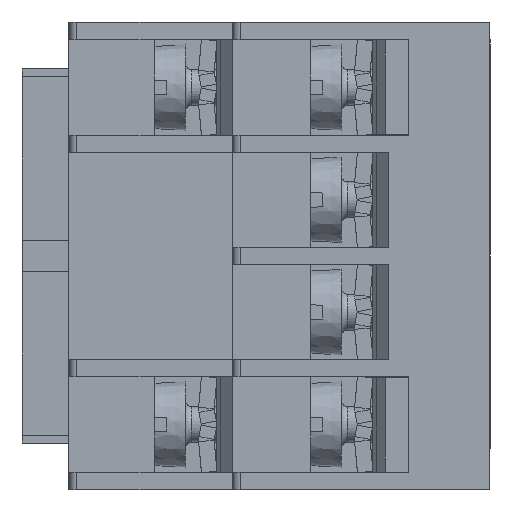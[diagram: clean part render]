
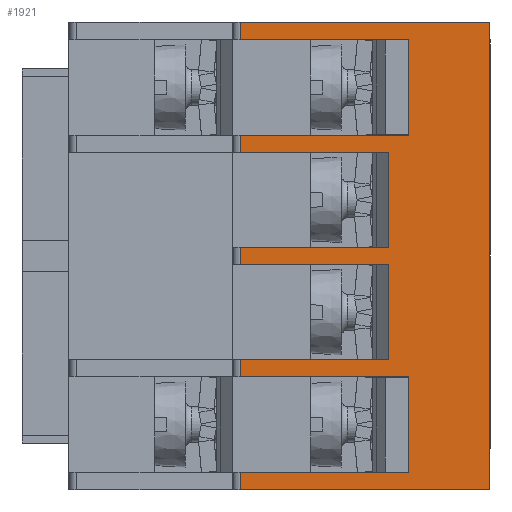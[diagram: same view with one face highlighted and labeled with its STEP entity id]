
A CAD part, left-side view. The second image highlights one B-rep face of the part: STEP entity #1921.
In plain terms, the highlighted planar face has unit normal (-1, 0, 0).
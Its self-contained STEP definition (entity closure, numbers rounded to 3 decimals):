
#1921=ADVANCED_FACE('',(#28666),#28668,.T.);
#28666=FACE_BOUND('',#28667,.T.);
#28667=EDGE_LOOP('',(#56540,#56541,#56542,#56543,#56544,#56545,#56546,#56547,#56548,
#56549,#56550,#56551,#56552,#56553,#56554,#56555,#56556,#56557,#56558,#56559));
#28668=PLANE('',#28669);
#28669=AXIS2_PLACEMENT_3D('',#28670,#28671,#28672);
#28670=CARTESIAN_POINT('',(-43.65,0.,-15.));
#28671=DIRECTION('',(-1.,0.,0.));
#28672=DIRECTION('',(0.,0.,1.));
#56540=ORIENTED_EDGE('',*,*,#72733,.T.);
#56541=ORIENTED_EDGE('',*,*,#72734,.T.);
#56542=ORIENTED_EDGE('',*,*,#72054,.F.);
#56543=ORIENTED_EDGE('',*,*,#72716,.T.);
#56544=ORIENTED_EDGE('',*,*,#72735,.T.);
#56545=ORIENTED_EDGE('',*,*,#72736,.T.);
#56546=ORIENTED_EDGE('',*,*,#72737,.T.);
#56547=ORIENTED_EDGE('',*,*,#72738,.T.);
#56548=ORIENTED_EDGE('',*,*,#72739,.T.);
#56549=ORIENTED_EDGE('',*,*,#72740,.T.);
#56550=ORIENTED_EDGE('',*,*,#72741,.T.);
#56551=ORIENTED_EDGE('',*,*,#72742,.F.);
#56552=ORIENTED_EDGE('',*,*,#72743,.T.);
#56553=ORIENTED_EDGE('',*,*,#72744,.T.);
#56554=ORIENTED_EDGE('',*,*,#72745,.T.);
#56555=ORIENTED_EDGE('',*,*,#72746,.F.);
#56556=ORIENTED_EDGE('',*,*,#72747,.T.);
#56557=ORIENTED_EDGE('',*,*,#72748,.T.);
#56558=ORIENTED_EDGE('',*,*,#72749,.T.);
#56559=ORIENTED_EDGE('',*,*,#72750,.T.);
#72054=EDGE_CURVE('',#80682,#80684,#80685,.T.);
#72716=EDGE_CURVE('',#80682,#81811,#81814,.T.);
#72733=EDGE_CURVE('',#81846,#81847,#81848,.F.);
#72734=EDGE_CURVE('',#81847,#80684,#81849,.T.);
#72735=EDGE_CURVE('',#81811,#81850,#81851,.T.);
#72736=EDGE_CURVE('',#81850,#81852,#81853,.T.);
#72737=EDGE_CURVE('',#81852,#81854,#81855,.F.);
#72738=EDGE_CURVE('',#81854,#81856,#81857,.F.);
#72739=EDGE_CURVE('',#81856,#81858,#81859,.F.);
#72740=EDGE_CURVE('',#81858,#81860,#81861,.T.);
#72741=EDGE_CURVE('',#81860,#81862,#81863,.F.);
#72742=EDGE_CURVE('',#81864,#81862,#81865,.T.);
#72743=EDGE_CURVE('',#81864,#81866,#81867,.F.);
#72744=EDGE_CURVE('',#81866,#81868,#81869,.T.);
#72745=EDGE_CURVE('',#81868,#81870,#81871,.F.);
#72746=EDGE_CURVE('',#81872,#81870,#81873,.T.);
#72747=EDGE_CURVE('',#81872,#81874,#81875,.F.);
#72748=EDGE_CURVE('',#81874,#81876,#81877,.T.);
#72749=EDGE_CURVE('',#81876,#81878,#81879,.F.);
#72750=EDGE_CURVE('',#81878,#81846,#81880,.F.);
#80682=VERTEX_POINT('',#95202);
#80684=VERTEX_POINT('',#95206);
#80685=LINE('',#95207,#95208);
#81811=VERTEX_POINT('',#97931);
#81814=LINE('',#97936,#97937);
#81846=VERTEX_POINT('',#98002);
#81847=VERTEX_POINT('',#98003);
#81848=LINE('',#98004,#98005);
#81849=LINE('',#98007,#98008);
#81850=VERTEX_POINT('',#98010);
#81851=LINE('',#98011,#98012);
#81852=VERTEX_POINT('',#98014);
#81853=LINE('',#98015,#98016);
#81854=VERTEX_POINT('',#98018);
#81855=LINE('',#98019,#98020);
#81856=VERTEX_POINT('',#98022);
#81857=LINE('',#98023,#98024);
#81858=VERTEX_POINT('',#98026);
#81859=LINE('',#98027,#98028);
#81860=VERTEX_POINT('',#98030);
#81861=LINE('',#98031,#98032);
#81862=VERTEX_POINT('',#98034);
#81863=LINE('',#98035,#98036);
#81864=VERTEX_POINT('',#98038);
#81865=LINE('',#98039,#98040);
#81866=VERTEX_POINT('',#98042);
#81867=LINE('',#98043,#98044);
#81868=VERTEX_POINT('',#98046);
#81869=LINE('',#98047,#98048);
#81870=VERTEX_POINT('',#98050);
#81871=LINE('',#98051,#98052);
#81872=VERTEX_POINT('',#98054);
#81873=LINE('',#98055,#98056);
#81874=VERTEX_POINT('',#98058);
#81875=LINE('',#98059,#98060);
#81876=VERTEX_POINT('',#98062);
#81877=LINE('',#98063,#98064);
#81878=VERTEX_POINT('',#98066);
#81879=LINE('',#98067,#98068);
#81880=LINE('',#98070,#98071);
#95202=CARTESIAN_POINT('',(-43.65,0.,-15.));
#95206=CARTESIAN_POINT('',(-43.65,16.,-15.));
#95207=CARTESIAN_POINT('',(-43.65,0.,-15.));
#95208=VECTOR('',#95209,1.);
#95209=DIRECTION('',(0.,1.,0.));
#97931=CARTESIAN_POINT('',(-43.65,0.,15.));
#97936=CARTESIAN_POINT('',(-43.65,0.,-15.));
#97937=VECTOR('',#97938,1.);
#97938=DIRECTION('',(0.,0.,1.));
#98002=CARTESIAN_POINT('',(-43.65,5.2,-13.85));
#98003=CARTESIAN_POINT('',(-43.65,16.,-13.85));
#98004=CARTESIAN_POINT('',(-43.65,16.,-13.85));
#98005=VECTOR('',#98006,1.);
#98006=DIRECTION('',(0.,-1.,0.));
#98007=CARTESIAN_POINT('',(-43.65,16.,-13.85));
#98008=VECTOR('',#98009,1.);
#98009=DIRECTION('',(0.,0.,-1.));
#98010=CARTESIAN_POINT('',(-43.65,16.,15.));
#98011=CARTESIAN_POINT('',(-43.65,0.,15.));
#98012=VECTOR('',#98013,1.);
#98013=DIRECTION('',(0.,1.,0.));
#98014=CARTESIAN_POINT('',(-43.65,16.,13.85));
#98015=CARTESIAN_POINT('',(-43.65,16.,15.));
#98016=VECTOR('',#98017,1.);
#98017=DIRECTION('',(0.,0.,-1.));
#98018=CARTESIAN_POINT('',(-43.65,5.2,13.85));
#98019=CARTESIAN_POINT('',(-43.65,5.2,13.85));
#98020=VECTOR('',#98021,1.);
#98021=DIRECTION('',(0.,1.,0.));
#98022=CARTESIAN_POINT('',(-43.65,5.2,7.75));
#98023=CARTESIAN_POINT('',(-43.65,5.2,7.75));
#98024=VECTOR('',#98025,1.);
#98025=DIRECTION('',(0.,0.,1.));
#98026=CARTESIAN_POINT('',(-43.65,16.,7.75));
#98027=CARTESIAN_POINT('',(-43.65,16.,7.75));
#98028=VECTOR('',#98029,1.);
#98029=DIRECTION('',(0.,-1.,0.));
#98030=CARTESIAN_POINT('',(-43.65,16.,6.65));
#98031=CARTESIAN_POINT('',(-43.65,16.,7.75));
#98032=VECTOR('',#98033,1.);
#98033=DIRECTION('',(0.,0.,-1.));
#98034=CARTESIAN_POINT('',(-43.65,6.5,6.65));
#98035=CARTESIAN_POINT('',(-43.65,6.5,6.65));
#98036=VECTOR('',#98037,1.);
#98037=DIRECTION('',(0.,1.,0.));
#98038=CARTESIAN_POINT('',(-43.65,6.5,0.55));
#98039=CARTESIAN_POINT('',(-43.65,6.5,0.55));
#98040=VECTOR('',#98041,1.);
#98041=DIRECTION('',(0.,0.,1.));
#98042=CARTESIAN_POINT('',(-43.65,16.,0.55));
#98043=CARTESIAN_POINT('',(-43.65,16.,0.55));
#98044=VECTOR('',#98045,1.);
#98045=DIRECTION('',(0.,-1.,0.));
#98046=CARTESIAN_POINT('',(-43.65,16.,-0.55));
#98047=CARTESIAN_POINT('',(-43.65,16.,0.55));
#98048=VECTOR('',#98049,1.);
#98049=DIRECTION('',(0.,0.,-1.));
#98050=CARTESIAN_POINT('',(-43.65,6.5,-0.55));
#98051=CARTESIAN_POINT('',(-43.65,6.5,-0.55));
#98052=VECTOR('',#98053,1.);
#98053=DIRECTION('',(0.,1.,0.));
#98054=CARTESIAN_POINT('',(-43.65,6.5,-6.65));
#98055=CARTESIAN_POINT('',(-43.65,6.5,-6.65));
#98056=VECTOR('',#98057,1.);
#98057=DIRECTION('',(0.,0.,1.));
#98058=CARTESIAN_POINT('',(-43.65,16.,-6.65));
#98059=CARTESIAN_POINT('',(-43.65,16.,-6.65));
#98060=VECTOR('',#98061,1.);
#98061=DIRECTION('',(0.,-1.,0.));
#98062=CARTESIAN_POINT('',(-43.65,16.,-7.75));
#98063=CARTESIAN_POINT('',(-43.65,16.,-6.65));
#98064=VECTOR('',#98065,1.);
#98065=DIRECTION('',(0.,0.,-1.));
#98066=CARTESIAN_POINT('',(-43.65,5.2,-7.75));
#98067=CARTESIAN_POINT('',(-43.65,5.2,-7.75));
#98068=VECTOR('',#98069,1.);
#98069=DIRECTION('',(0.,1.,0.));
#98070=CARTESIAN_POINT('',(-43.65,5.2,-13.85));
#98071=VECTOR('',#98072,1.);
#98072=DIRECTION('',(0.,0.,1.));
